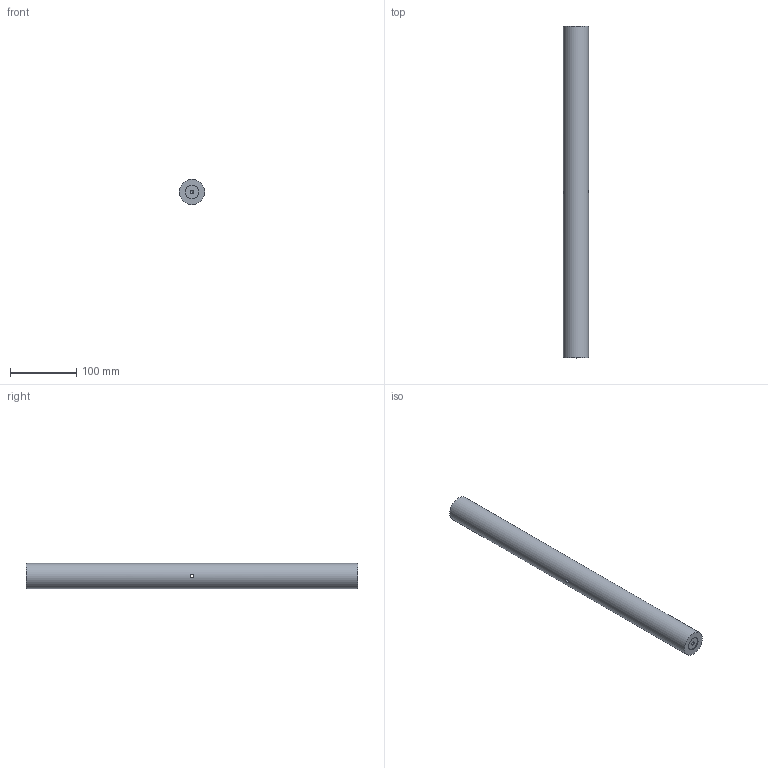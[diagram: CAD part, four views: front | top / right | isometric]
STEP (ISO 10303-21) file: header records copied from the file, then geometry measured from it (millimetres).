
FILE_DESCRIPTION (( 'STEP AP203' ), '1' );
FILE_NAME ('SRA-500.step', '2017-01-11T07:28:59', ( '¦K¬P' ), ( '' ), 'SwSTEP 2.0', 'SolidWorks 2012', '' );
FILE_SCHEMA (( 'CONFIG_CONTROL_DESIGN' ));
Length unit declared in the file: millimetre
Products named in the file (1): SRA-500
Bounding box: 38 x 500 x 38 mm (x, y, z)
Volume: 564705.4 mm3; surface area: 63246.3 mm2
Topology: 1 solids, 1 shells, 12 faces, 22 edges, 14 vertices
Faces by surface type: cylinder 6, plane 4, cone 2
Full cylindrical faces by diameter (mm): 5 x1, 5.105 x1, 6 x1, 20 x2, 38 x1
Entity records: 449 total; most frequent: CARTESIAN_POINT 167, DIRECTION 46, EDGE_LOOP 24, ORIENTED_EDGE 24, AXIS2_PLACEMENT_3D 23, FACE_OUTER_BOUND 18, ADVANCED_FACE 12, VERTEX_POINT 12
